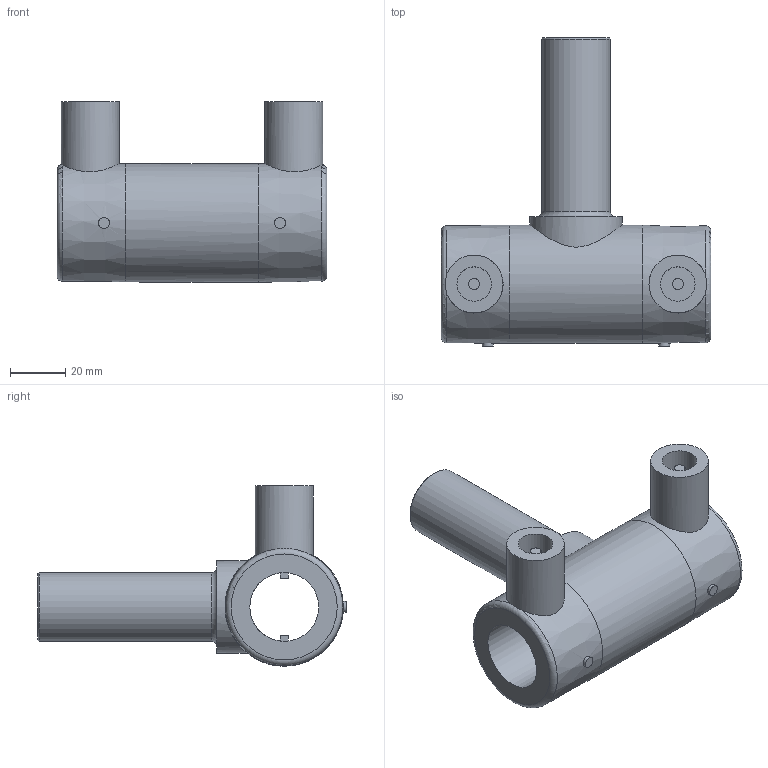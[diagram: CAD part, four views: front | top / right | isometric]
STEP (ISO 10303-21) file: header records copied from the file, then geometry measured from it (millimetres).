
FILE_DESCRIPTION(/* description */ ('Unknown'),/* implementation_level */ '2;1');
FILE_NAME(/* name */ 'TEP025C',/* time_stamp */ '2020-12-09T17:52:26+01:00',/* author */ ('Unknown'),/* organization */ ('Unknown'),/* preprocessor_version */ 'ST-DEVELOPER v16.7',/* originating_system */ 'Solid Edge',/* authorisation */ 'Unknown');
FILE_SCHEMA (('AUTOMOTIVE_DESIGN {1 0 10303 214 3 1 1}'));
Length unit declared in the file: millimetre
Products named in the file (1): TEP025C
Bounding box: 98 x 112 x 65.5 mm (x, y, z)
Volume: 116487.9 mm3; surface area: 37583.1 mm2
Topology: 1 solids, 1 shells, 41 faces, 91 edges, 61 vertices
Faces by surface type: plane 22, cylinder 13, cone 3, torus 3
Full cylindrical faces by diameter (mm): 4 x4, 12.5 x2, 20.4 x1, 21 x2, 25 x2, 33.5 x1, 43 x1
Entity records: 1073 total; most frequent: CARTESIAN_POINT 273, DIRECTION 164, ORIENTED_EDGE 116, EDGE_LOOP 74, FACE_BOUND 74, AXIS2_PLACEMENT_3D 72, EDGE_CURVE 58, VERTEX_POINT 48
